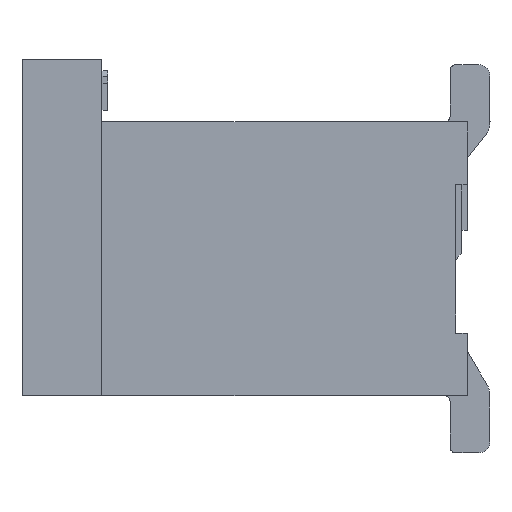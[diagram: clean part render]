
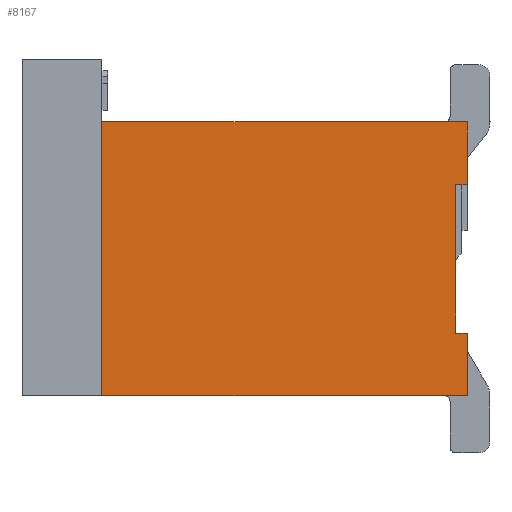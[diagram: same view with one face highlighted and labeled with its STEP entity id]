
A CAD part, left-side view. The second image highlights one B-rep face of the part: STEP entity #8167.
In plain terms, the highlighted planar face has unit normal (-1, 0, 0).
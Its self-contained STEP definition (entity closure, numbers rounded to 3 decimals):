
#435=DIRECTION('',(0.,-1.,0.));
#436=VECTOR('',#435,3.2);
#437=CARTESIAN_POINT('',(0.55,3.4,-2.95));
#438=LINE('',#437,#436);
#1770=DIRECTION('',(0.,0.,-1.));
#1771=VECTOR('',#1770,2.4);
#1772=CARTESIAN_POINT('',(0.55,3.4,-0.55));
#1773=LINE('',#1772,#1771);
#1790=DIRECTION('',(0.,-1.,0.));
#1791=VECTOR('',#1790,3.2);
#1792=CARTESIAN_POINT('',(0.55,3.4,-0.55));
#1793=LINE('',#1792,#1791);
#1794=DIRECTION('',(0.,1.,0.));
#1795=VECTOR('',#1794,0.1);
#1796=CARTESIAN_POINT('',(0.55,0.2,-1.1));
#1797=LINE('',#1796,#1795);
#1798=DIRECTION('',(0.,0.,-1.));
#1799=VECTOR('',#1798,1.3);
#1800=CARTESIAN_POINT('',(0.55,0.3,-1.1));
#1801=LINE('',#1800,#1799);
#1814=DIRECTION('',(0.,0.,1.));
#1815=VECTOR('',#1814,0.55);
#1816=CARTESIAN_POINT('',(0.55,0.2,-1.1));
#1817=LINE('',#1816,#1815);
#1834=DIRECTION('',(0.,-1.,0.));
#1835=VECTOR('',#1834,0.1);
#1836=CARTESIAN_POINT('',(0.55,0.3,-2.4));
#1837=LINE('',#1836,#1835);
#1862=DIRECTION('',(0.,0.,1.));
#1863=VECTOR('',#1862,0.55);
#1864=CARTESIAN_POINT('',(0.55,0.2,-2.95));
#1865=LINE('',#1864,#1863);
#4189=CARTESIAN_POINT('',(0.55,0.3,-1.1));
#4190=VERTEX_POINT('',#4189);
#4191=CARTESIAN_POINT('',(0.55,0.3,-2.4));
#4192=VERTEX_POINT('',#4191);
#4217=CARTESIAN_POINT('',(0.55,0.2,-0.55));
#4218=VERTEX_POINT('',#4217);
#4219=CARTESIAN_POINT('',(0.55,3.4,-0.55));
#4220=VERTEX_POINT('',#4219);
#4375=CARTESIAN_POINT('',(0.55,0.2,-1.1));
#4376=VERTEX_POINT('',#4375);
#4377=CARTESIAN_POINT('',(0.55,3.4,-2.95));
#4378=VERTEX_POINT('',#4377);
#4379=CARTESIAN_POINT('',(0.55,0.2,-2.95));
#4380=VERTEX_POINT('',#4379);
#4381=CARTESIAN_POINT('',(0.55,0.2,-2.4));
#4382=VERTEX_POINT('',#4381);
#8148=CARTESIAN_POINT('',(0.55,1.8,-1.75));
#8149=DIRECTION('',(1.,0.,0.));
#8150=DIRECTION('',(0.,-1.,0.));
#8151=AXIS2_PLACEMENT_3D('',#8148,#8149,#8150);
#8152=PLANE('',#8151);
#8153=ORIENTED_EDGE('',*,*,#6013,.T.);
#8155=ORIENTED_EDGE('',*,*,#8154,.F.);
#8157=ORIENTED_EDGE('',*,*,#8156,.T.);
#8158=ORIENTED_EDGE('',*,*,#6122,.T.);
#8160=ORIENTED_EDGE('',*,*,#8159,.T.);
#8162=ORIENTED_EDGE('',*,*,#8161,.F.);
#8163=ORIENTED_EDGE('',*,*,#6181,.F.);
#8164=ORIENTED_EDGE('',*,*,#8109,.F.);
#8165=EDGE_LOOP('',(#8153,#8155,#8157,#8158,#8160,#8162,#8163,#8164));
#8166=FACE_OUTER_BOUND('',#8165,.F.);
#8167=ADVANCED_FACE('',(#8166),#8152,.F.);
#6013=EDGE_CURVE('',#4220,#4218,#1793,.T.);
#6122=EDGE_CURVE('',#4190,#4192,#1801,.T.);
#6181=EDGE_CURVE('',#4378,#4380,#438,.T.);
#8109=EDGE_CURVE('',#4220,#4378,#1773,.T.);
#8154=EDGE_CURVE('',#4376,#4218,#1817,.T.);
#8156=EDGE_CURVE('',#4376,#4190,#1797,.T.);
#8159=EDGE_CURVE('',#4192,#4382,#1837,.T.);
#8161=EDGE_CURVE('',#4380,#4382,#1865,.T.);
